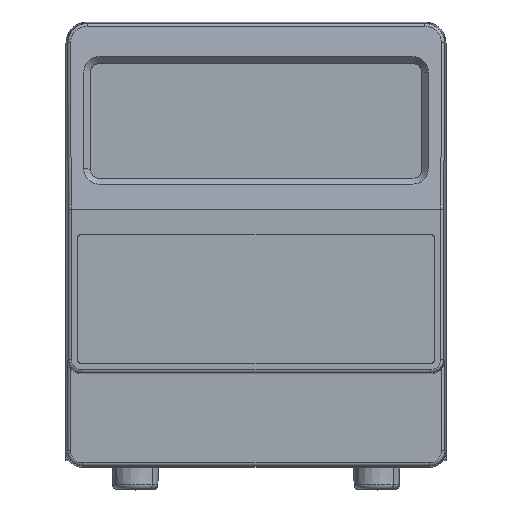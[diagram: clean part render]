
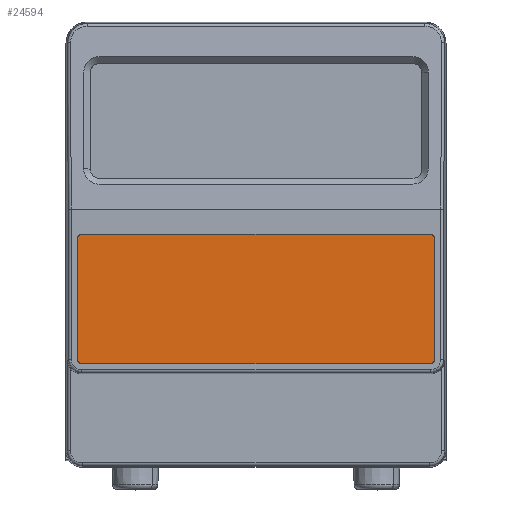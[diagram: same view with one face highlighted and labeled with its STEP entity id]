
A CAD part, top view. The second image highlights one B-rep face of the part: STEP entity #24594.
In plain terms, the highlighted planar face has unit normal (0, 0, 1).
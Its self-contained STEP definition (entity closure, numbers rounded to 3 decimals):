
#583 = VERTEX_POINT ( 'NONE', #7337 ) ;
#1533 = VERTEX_POINT ( 'NONE', #5230 ) ;
#1655 = ORIENTED_EDGE ( 'NONE', *, *, #14767, .T. ) ;
#1952 = VERTEX_POINT ( 'NONE', #2679 ) ;
#2166 = EDGE_CURVE ( 'NONE', #583, #1952, #4006, .T. ) ;
#2252 = DIRECTION ( 'NONE',  ( 0., -1., 0. ) ) ;
#2679 = CARTESIAN_POINT ( 'NONE',  ( 57.749, 73.578, 140.696 ) ) ;
#3747 = DIRECTION ( 'NONE',  ( 0., 0., 1. ) ) ;
#4006 = CIRCLE ( 'NONE', #11014, 1.43 ) ;
#4374 = VECTOR ( 'NONE', #18139, 1000. ) ;
#4447 = DIRECTION ( 'NONE',  ( -1., 0., 0. ) ) ;
#4599 = FACE_OUTER_BOUND ( 'NONE', #14659, .T. ) ;
#4888 = CARTESIAN_POINT ( 'NONE',  ( 57.749, 72.148, 140.696 ) ) ;
#5000 = AXIS2_PLACEMENT_3D ( 'NONE', #25519, #3747, #30206 ) ;
#5041 = VERTEX_POINT ( 'NONE', #28356 ) ;
#5230 = CARTESIAN_POINT ( 'NONE',  ( 57.749, 30.719, 140.696 ) ) ;
#5312 = EDGE_CURVE ( 'NONE', #1533, #19934, #8012, .T. ) ;
#5868 = DIRECTION ( 'NONE',  ( 0., 0., 1. ) ) ;
#5962 = VECTOR ( 'NONE', #4447, 1000. ) ;
#6587 = CARTESIAN_POINT ( 'NONE',  ( 57.749, 72.148, 140.696 ) ) ;
#7021 = VERTEX_POINT ( 'NONE', #21102 ) ;
#7221 = EDGE_CURVE ( 'NONE', #1952, #5041, #16668, .T. ) ;
#7337 = CARTESIAN_POINT ( 'NONE',  ( 59.179, 72.148, 140.696 ) ) ;
#7351 = AXIS2_PLACEMENT_3D ( 'NONE', #4888, #28368, #11635 ) ;
#7866 = CARTESIAN_POINT ( 'NONE',  ( 59.179, 72.148, 140.696 ) ) ;
#7892 = CIRCLE ( 'NONE', #29409, 1.43 ) ;
#8012 = CIRCLE ( 'NONE', #5000, 1.43 ) ;
#9529 = EDGE_CURVE ( 'NONE', #27725, #1533, #20312, .T. ) ;
#9927 = EDGE_CURVE ( 'NONE', #11132, #27725, #7892, .T. ) ;
#10793 = ORIENTED_EDGE ( 'NONE', *, *, #9529, .T. ) ;
#11014 = AXIS2_PLACEMENT_3D ( 'NONE', #6587, #30082, #18183 ) ;
#11086 = ORIENTED_EDGE ( 'NONE', *, *, #2166, .T. ) ;
#11132 = VERTEX_POINT ( 'NONE', #11580 ) ;
#11580 = CARTESIAN_POINT ( 'NONE',  ( -59.179, 32.149, 140.696 ) ) ;
#11635 = DIRECTION ( 'NONE',  ( -1., 0., 0. ) ) ;
#11855 = DIRECTION ( 'NONE',  ( 0., 1., 0. ) ) ;
#12535 = CARTESIAN_POINT ( 'NONE',  ( -57.749, 30.719, 140.696 ) ) ;
#13810 = DIRECTION ( 'NONE',  ( 0., 0., 1. ) ) ;
#14659 = EDGE_LOOP ( 'NONE', ( #11086, #18586, #1655, #14943, #25013, #10793, #15590, #28772 ) ) ;
#14767 = EDGE_CURVE ( 'NONE', #5041, #7021, #25411, .T. ) ;
#14943 = ORIENTED_EDGE ( 'NONE', *, *, #25456, .T. ) ;
#15590 = ORIENTED_EDGE ( 'NONE', *, *, #5312, .T. ) ;
#15889 = CARTESIAN_POINT ( 'NONE',  ( -57.749, 32.149, 140.696 ) ) ;
#16668 = LINE ( 'NONE', #30909, #5962 ) ;
#16829 = LINE ( 'NONE', #29058, #27401 ) ;
#16919 = AXIS2_PLACEMENT_3D ( 'NONE', #20840, #13810, #30243 ) ;
#16954 = PLANE ( 'NONE',  #7351 ) ;
#18139 = DIRECTION ( 'NONE',  ( 1., 0., 0. ) ) ;
#18183 = DIRECTION ( 'NONE',  ( -1., 0., 0. ) ) ;
#18586 = ORIENTED_EDGE ( 'NONE', *, *, #7221, .T. ) ;
#19934 = VERTEX_POINT ( 'NONE', #29389 ) ;
#19997 = VECTOR ( 'NONE', #11855, 1000. ) ;
#20312 = LINE ( 'NONE', #22532, #4374 ) ;
#20434 = DIRECTION ( 'NONE',  ( -1., 0., 0. ) ) ;
#20840 = CARTESIAN_POINT ( 'NONE',  ( -57.749, 72.148, 140.696 ) ) ;
#21102 = CARTESIAN_POINT ( 'NONE',  ( -59.179, 72.148, 140.696 ) ) ;
#22532 = CARTESIAN_POINT ( 'NONE',  ( -57.749, 30.719, 140.696 ) ) ;
#24594 = ADVANCED_FACE ( 'NONE', ( #4599 ), #16954, .F. ) ;
#25013 = ORIENTED_EDGE ( 'NONE', *, *, #9927, .T. ) ;
#25411 = CIRCLE ( 'NONE', #16919, 1.43 ) ;
#25456 = EDGE_CURVE ( 'NONE', #7021, #11132, #16829, .T. ) ;
#25519 = CARTESIAN_POINT ( 'NONE',  ( 57.749, 32.149, 140.696 ) ) ;
#26863 = EDGE_CURVE ( 'NONE', #19934, #583, #30972, .T. ) ;
#27401 = VECTOR ( 'NONE', #2252, 1000. ) ;
#27725 = VERTEX_POINT ( 'NONE', #12535 ) ;
#28356 = CARTESIAN_POINT ( 'NONE',  ( -57.749, 73.578, 140.696 ) ) ;
#28368 = DIRECTION ( 'NONE',  ( 0., 0., -1. ) ) ;
#28772 = ORIENTED_EDGE ( 'NONE', *, *, #26863, .T. ) ;
#29058 = CARTESIAN_POINT ( 'NONE',  ( -59.179, 72.148, 140.696 ) ) ;
#29389 = CARTESIAN_POINT ( 'NONE',  ( 59.179, 32.149, 140.696 ) ) ;
#29409 = AXIS2_PLACEMENT_3D ( 'NONE', #15889, #5868, #20434 ) ;
#30082 = DIRECTION ( 'NONE',  ( 0., 0., 1. ) ) ;
#30206 = DIRECTION ( 'NONE',  ( -1., 0., 0. ) ) ;
#30243 = DIRECTION ( 'NONE',  ( -1., 0., 0. ) ) ;
#30909 = CARTESIAN_POINT ( 'NONE',  ( -57.749, 73.578, 140.696 ) ) ;
#30972 = LINE ( 'NONE', #7866, #19997 ) ;
